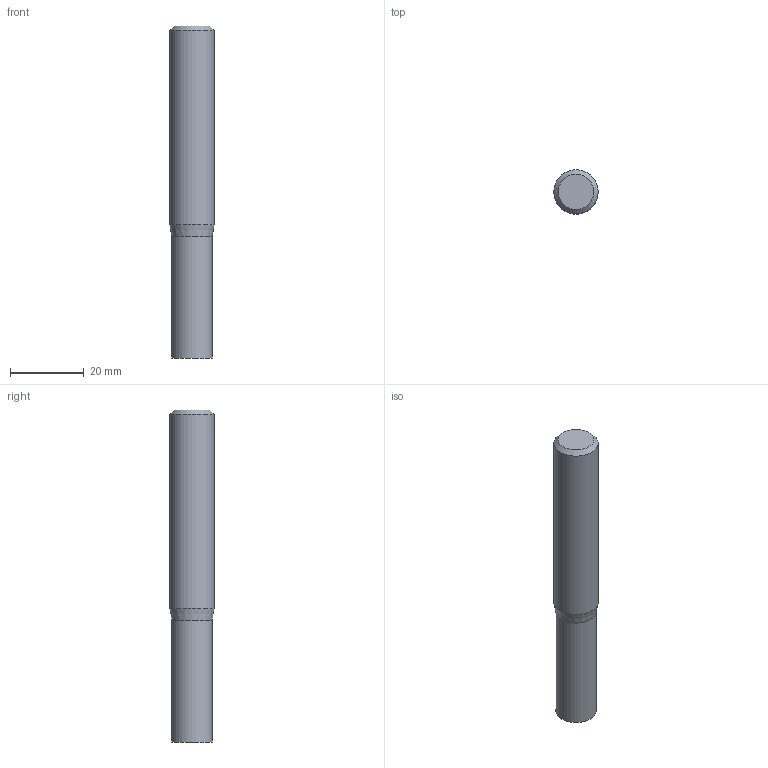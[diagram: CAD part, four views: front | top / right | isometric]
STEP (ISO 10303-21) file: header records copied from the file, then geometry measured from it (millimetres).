
FILE_DESCRIPTION((''),'2;1');
FILE_NAME('C:\Users\nsx150\AppData\Local\Temp\Mastercam 2021\W9Z147XDNF\TEMP.step','2021-04-08T14:43:43',(''),(''),'STEP Write','Mastercam 2021 ... CNC Software, Inc.','');
FILE_SCHEMA(('AUTOMOTIVE_DESIGN'));
Length unit declared in the file: millimetre
Products named in the file (1): None
Bounding box: 12 x 12 x 90 mm (x, y, z)
Volume: 9528.4 mm3; surface area: 3655.5 mm2
Topology: 2 solids, 2 shells, 8 faces, 10 edges, 6 vertices
Faces by surface type: plane 4, cylinder 2, cone 2
Full cylindrical faces by diameter (mm): 11 x1, 12 x1
Entity records: 190 total; most frequent: DIRECTION 32, CARTESIAN_POINT 22, AXIS2_PLACEMENT_3D 16, ORIENTED_EDGE 12, EDGE_LOOP 12, STYLED_ITEM 11, ADVANCED_FACE 8, VERTEX_POINT 6
